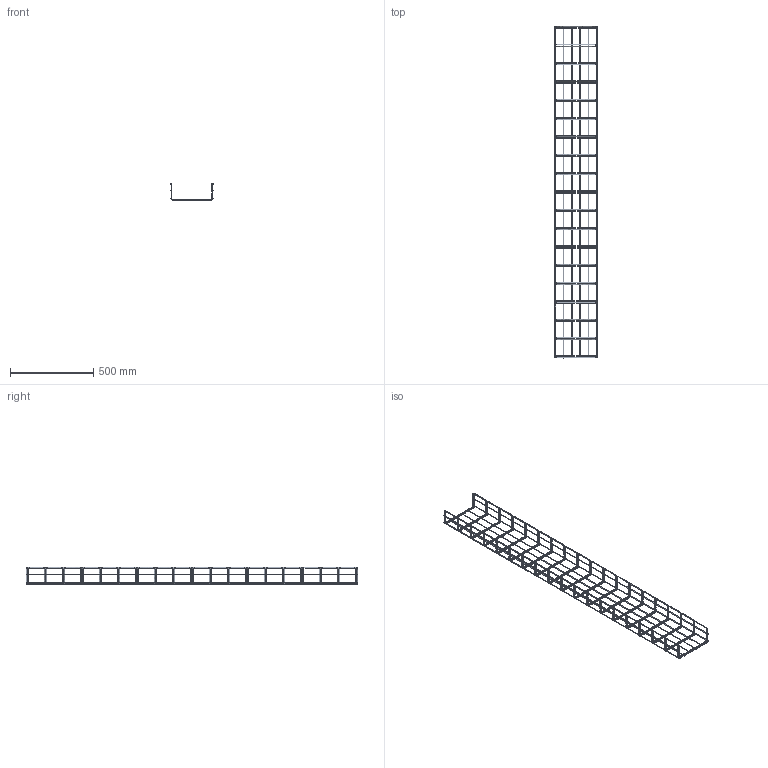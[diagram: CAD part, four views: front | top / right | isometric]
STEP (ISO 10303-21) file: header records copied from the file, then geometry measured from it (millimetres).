
FILE_DESCRIPTION(/* description */ (''),/* implementation_level */ '2;1');
FILE_NAME(/* name */ 'M2_250×100',/* time_stamp */ '2012-11-29T22:10:56+01:00',/* author */ (''),/* organization */ (''),/* preprocessor_version */ 'ST-DEVELOPER v10',/* originating_system */ '',/* authorisation */ '');
FILE_SCHEMA (('AUTOMOTIVE_DESIGN_CC2'));
Length unit declared in the file: millimetre
Products named in the file (1): 1
Bounding box: 254.19 x 1993.51 x 103.94 mm (x, y, z)
Surface area: 435707.4 mm2 (no closed solid volume)
Topology: 0 solids, 330 shells, 640 faces, 1880 edges, 1260 vertices
Faces by surface type: bspline 620, plane 20
Entity records: 53118 total; most frequent: CARTESIAN_POINT 41106, ORIENTED_EDGE 2500, EDGE_CURVE 1880, VERTEX_POINT 1260, B_SPLINE_CURVE_WITH_KNOTS 692, ADVANCED_FACE 640, FACE_OUTER_BOUND 640, EDGE_LOOP 640
